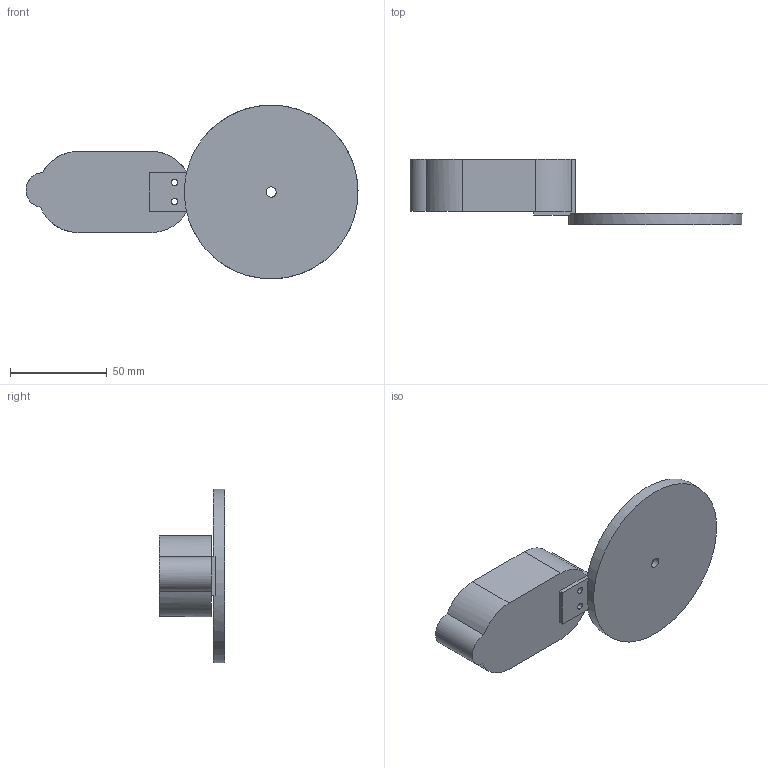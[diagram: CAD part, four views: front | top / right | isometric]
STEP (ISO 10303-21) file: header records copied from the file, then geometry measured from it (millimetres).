
FILE_DESCRIPTION(('SolidCraft model'),'2;1');
FILE_NAME('R_WRAP_HAND_FRONT.step','',(''),(''),'SolidCraft','SolidCraft','');
FILE_SCHEMA(('AP242_MANAGED_MODEL_BASED_3D_ENGINEERING_MIM_LF { 1 0 10303 442 1 1 4 }'));
Length unit declared in the file: millimetre
Products named in the file (1): R_WRAP_HAND_FRONT
Bounding box: 171.98 x 34 x 89.98 mm (x, y, z)
Volume: 76700.3 mm3; surface area: 32124.3 mm2
Topology: 1 solids, 1 shells, 53 faces, 162 edges, 114 vertices
Faces by surface type: plane 37, cylinder 16
Full cylindrical faces by diameter (mm): 3.4 x2, 4.4 x2, 5.3 x1, 90 x1
Entity records: 1677 total; most frequent: CARTESIAN_POINT 438, ORIENTED_EDGE 324, EDGE_CURVE 162, DIRECTION 161, VERTEX_POINT 114, LINE 106, VECTOR 72, EDGE_LOOP 62
